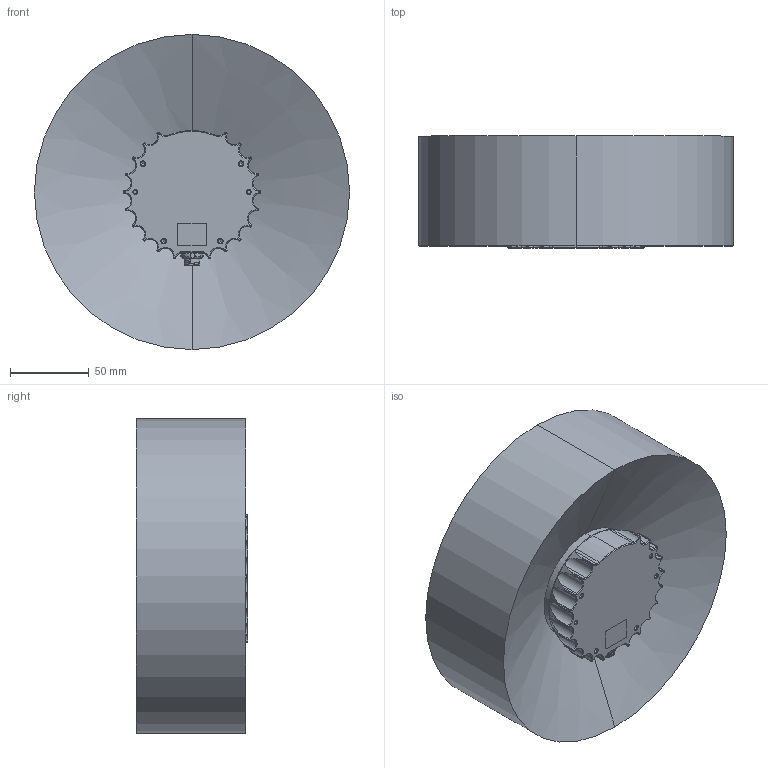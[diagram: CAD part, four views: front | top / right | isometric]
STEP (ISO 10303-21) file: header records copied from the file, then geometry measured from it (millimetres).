
FILE_DESCRIPTION (( 'STEP AP214' ), '1' );
FILE_NAME ('840-102145-D-SensorAssemblyOS1_FlatCap_FOV.STEP', '2020-12-14T19:13:13', ( '' ), ( '' ), 'SwSTEP 2.0', 'SolidWorks 2020', '' );
FILE_SCHEMA (( 'AUTOMOTIVE_DESIGN' ));
Length unit declared in the file: millimetre
Products named in the file (3): sensor_fov_20201016; 840-102145-D-SensorAssemblyOS1_FlatCap_FOV; defeature_840-102145-D-SensorAssemblyOS1_FlatCap
Assembly tree (2 placements, depth 2):
  840-102145-D-SensorAssemblyOS1_FlatCap_FOV
    defeature_840-102145-D-SensorAssemblyOS1_FlatCap
    sensor_fov_20201016
Bounding box: 200 x 71.05 x 200 mm (x, y, z)
Volume: 1560157.4 mm3; surface area: 133297.5 mm2
Topology: 2 solids, 2 shells, 954 faces, 2344 edges, 1422 vertices
Faces by surface type: cone 347, cylinder 276, plane 257, bspline 64, torus 8, sphere 2
Entity records: 41948 total; most frequent: CARTESIAN_POINT 16899, ORIENTED_EDGE 4558, DIRECTION 4329, EDGE_CURVE 2279, AXIS2_PLACEMENT_3D 1695, VERTEX_POINT 1422, EDGE_LOOP 1049, ADVANCED_FACE 954
